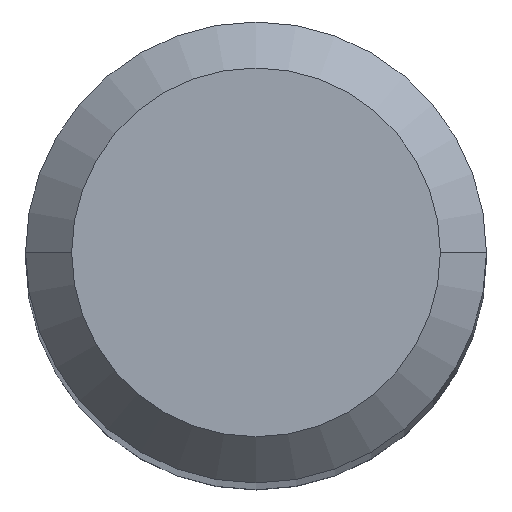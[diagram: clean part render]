
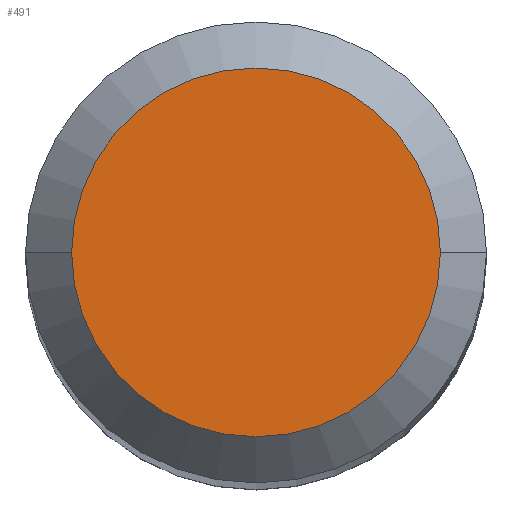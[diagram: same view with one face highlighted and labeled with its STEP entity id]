
A CAD part, top view. The second image highlights one B-rep face of the part: STEP entity #491.
In plain terms, the highlighted planar face has unit normal (0, 0, 1).
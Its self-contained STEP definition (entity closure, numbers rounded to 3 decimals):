
#20 = AXIS2_PLACEMENT_3D ( 'NONE', #403, #362, #397 ) ;
#66 = DIRECTION ( 'NONE',  ( 0., 0., -1. ) ) ;
#71 = EDGE_LOOP ( 'NONE', ( #157, #460 ) ) ;
#74 = EDGE_CURVE ( 'NONE', #446, #93, #390, .T. ) ;
#93 = VERTEX_POINT ( 'NONE', #316 ) ;
#98 = FACE_OUTER_BOUND ( 'NONE', #71, .T. ) ;
#131 = CARTESIAN_POINT ( 'NONE',  ( -1.26, 0., 0. ) ) ;
#157 = ORIENTED_EDGE ( 'NONE', *, *, #74, .F. ) ;
#170 = DIRECTION ( 'NONE',  ( 1., 0., 0. ) ) ;
#177 = CARTESIAN_POINT ( 'NONE',  ( 0., 1.26, 0. ) ) ;
#240 = AXIS2_PLACEMENT_3D ( 'NONE', #482, #66, #336 ) ;
#251 = PLANE ( 'NONE',  #300 ) ;
#300 = AXIS2_PLACEMENT_3D ( 'NONE', #177, #395, #170 ) ;
#316 = CARTESIAN_POINT ( 'NONE',  ( 1.26, 0., 0. ) ) ;
#336 = DIRECTION ( 'NONE',  ( -1., 0., 0. ) ) ;
#341 = EDGE_CURVE ( 'NONE', #93, #446, #454, .T. ) ;
#362 = DIRECTION ( 'NONE',  ( 0., 0., -1. ) ) ;
#390 = CIRCLE ( 'NONE', #20, 1.26 ) ;
#395 = DIRECTION ( 'NONE',  ( 0., 0., 1. ) ) ;
#397 = DIRECTION ( 'NONE',  ( -1., 0., 0. ) ) ;
#403 = CARTESIAN_POINT ( 'NONE',  ( 0., 0., 0. ) ) ;
#446 = VERTEX_POINT ( 'NONE', #131 ) ;
#454 = CIRCLE ( 'NONE', #240, 1.26 ) ;
#460 = ORIENTED_EDGE ( 'NONE', *, *, #341, .F. ) ;
#482 = CARTESIAN_POINT ( 'NONE',  ( 0., 0., 0. ) ) ;
#491 = ADVANCED_FACE ( 'NONE', ( #98 ), #251, .T. ) ;
